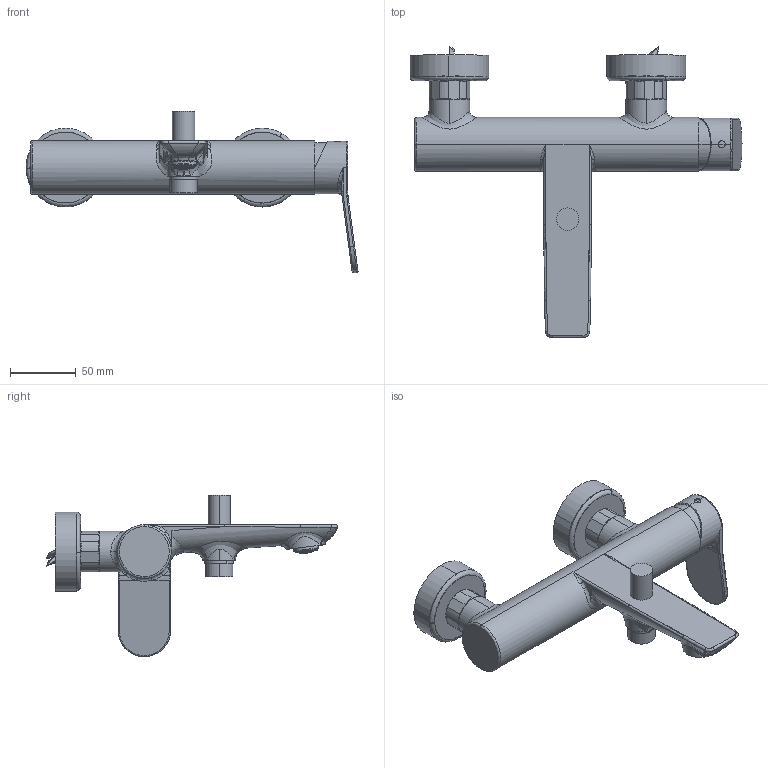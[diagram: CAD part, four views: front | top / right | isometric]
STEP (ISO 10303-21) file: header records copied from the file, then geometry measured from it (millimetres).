
FILE_DESCRIPTION (( 'STEP AP214' ), '1' );
FILE_NAME ('82122110 x architetti.STEP', '2025-01-13T16:05:26', ( '' ), ( '' ), 'SwSTEP 2.0', 'SolidWorks 2020', '' );
FILE_SCHEMA (( 'AUTOMOTIVE_DESIGN' ));
Length unit declared in the file: millimetre
Products named in the file (1): 82122110 x architetti
Bounding box: 252.84 x 221.73 x 122.85 mm (x, y, z)
Surface area: 104130.2 mm2 (no closed solid volume)
Topology: 0 solids, 17 shells, 5611 faces, 16119 edges, 10436 vertices
Faces by surface type: plane 3903, bspline 1176, cylinder 381, cone 149, torus 2
Entity records: 310690 total; most frequent: CARTESIAN_POINT 123408, ORIENTED_EDGE 31814, DIRECTION 17475, EDGE_CURVE 15911, VERTEX_POINT 10436, B_SPLINE_CURVE_WITH_KNOTS 8393, EDGE_LOOP 6697, AXIS2_PLACEMENT_3D 6092
